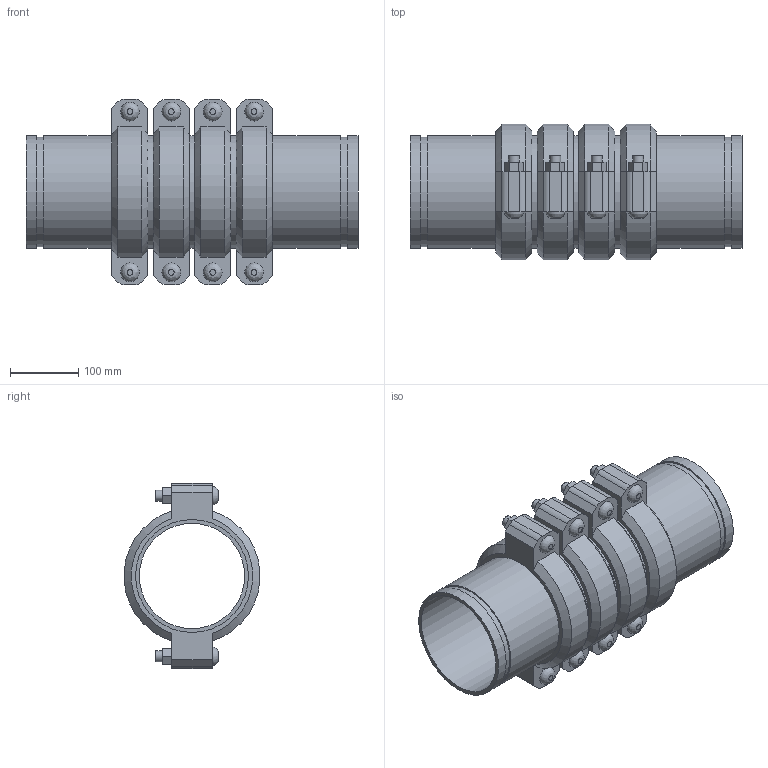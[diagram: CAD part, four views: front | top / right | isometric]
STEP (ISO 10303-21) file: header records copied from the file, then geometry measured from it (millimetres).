
FILE_DESCRIPTION(/* description */ ('VIC EXPANSION JOINT 4 COUPLINGS COMPRESSED STYLE 155 (OGS)','CAx-IF Rec.Pracs.---Representation and Presentation of Product Manufacturing Information (PMI)---4.0---2014-10-13'),/* implementation_level */ '2;1');
FILE_NAME(/* name */ 'C:\Users\kkamble\AppData\Roaming\Autodesk\ApplicationPlugins\Victaulic.Temp\A318\Victaulic_IPS_Expansion Joint_Compressed_4 Couplings_Style 155 (OGS)_06.0 (165.1) (150).stp',/* time_stamp */ '2021-06-27T00:27:55+02:00',/* author */ ('kkamble'),/* organization */ ('Victaulic'),/* preprocessor_version */ 'ST-DEVELOPER v17.2',/* originating_system */ 'Autodesk Inventor 2019',/* authorisation */ '');
FILE_SCHEMA (('AP242_MANAGED_MODEL_BASED_3D_ENGINEERING_MIM_LF { 1 0 10303 442 1 1 4 }'));
Length unit declared in the file: inch
Products named in the file (4): 155-06.5 (165.1); Nipple-06.0 (165.1); Nipple-06.0 (165.1)_1; 075_4_Coup-06.0 (165.1)
Assembly tree (9 placements, depth 2):
  155-06.5 (165.1)
    Nipple-06.0 (165.1)  x2
    Nipple-06.0 (165.1)_1  x3
    075_4_Coup-06.0 (165.1)  x4
Bounding box: 485.39 x 198.42 x 270.76 mm (x, y, z)
Volume: 4049453.9 mm3; surface area: 968335.9 mm2
Topology: 9 solids, 17 shells, 288 faces, 682 edges, 480 vertices
Faces by surface type: plane 174, cylinder 90, cone 16, bspline 8
Full cylindrical faces by diameter (mm): 15.875 x16, 17.424 x8, 153.975 x5, 158.75 x4, 160.782 x10, 165.1 x23
Entity records: 2794 total; most frequent: CARTESIAN_POINT 493, DIRECTION 461, ORIENTED_EDGE 386, EDGE_CURVE 193, AXIS2_PLACEMENT_3D 184, VERTEX_POINT 138, EDGE_LOOP 107, LINE 93
